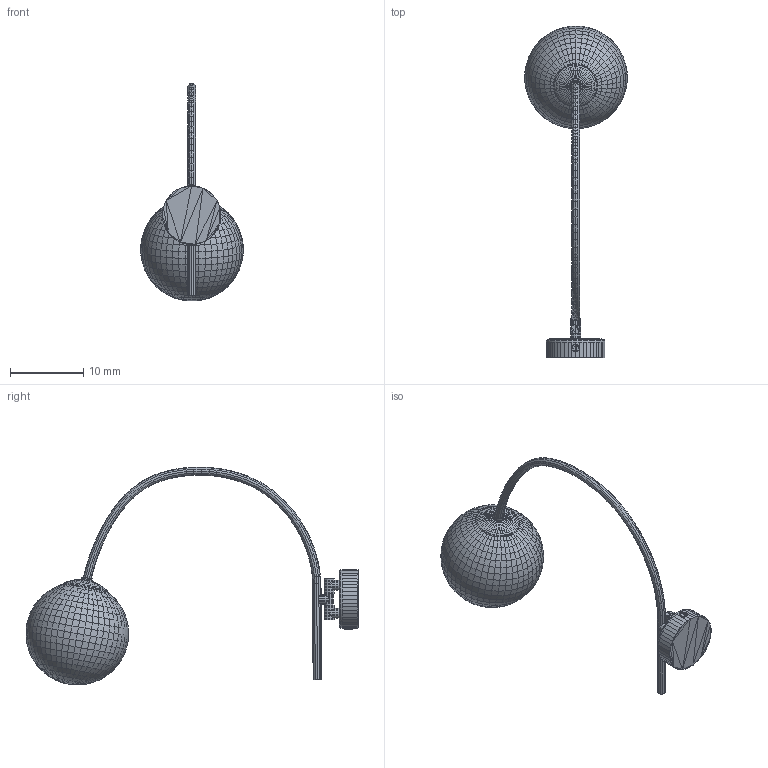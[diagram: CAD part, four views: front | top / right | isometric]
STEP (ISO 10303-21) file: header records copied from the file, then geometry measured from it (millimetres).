
FILE_DESCRIPTION(/* description */ (''),/* implementation_level */ '2;1');
FILE_NAME(/* name */ '1088C1',/* time_stamp */ '2023-03-15T21:01:42+01:00',/* author */ (''),/* organization */ (''),/* preprocessor_version */ 'ST-DEVELOPER v16.5',/* originating_system */ 'Rhino 7.22',/* authorisation */ '');
FILE_SCHEMA (('AUTOMOTIVE_DESIGN'));
Products named in the file (1): Document
Bounding box: 14 x 45.22 x 29.68 mm (x, y, z)
Volume: 1625.8 mm3; surface area: 1086.4 mm2
Topology: 11 solids, 13 shells, 4424 faces, 8640 edges, 4239 vertices
Faces by surface type: plane 3825, bspline 599
Entity records: 91915 total; most frequent: CARTESIAN_POINT 27743, ORIENTED_EDGE 17136, EDGE_CURVE 8640, B_SPLINE_CURVE_WITH_KNOTS 8640, ADVANCED_FACE 4424, FACE_OUTER_BOUND 4424, EDGE_LOOP 4424, VERTEX_POINT 4239
